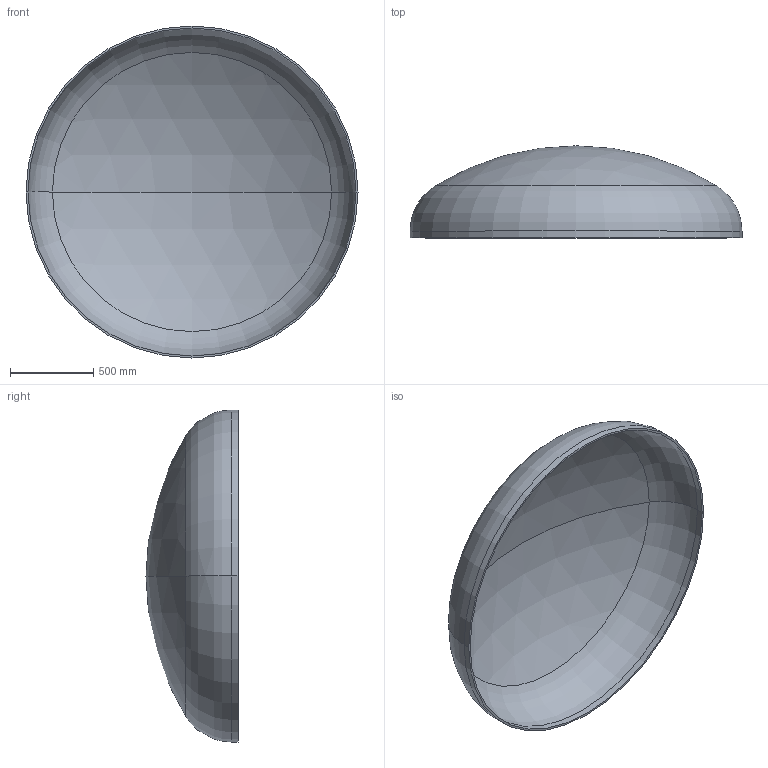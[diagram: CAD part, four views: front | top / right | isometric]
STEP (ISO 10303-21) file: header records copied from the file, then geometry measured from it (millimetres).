
FILE_DESCRIPTION (( 'STEP AP203' ), '1' );
FILE_NAME ('DIN 28013 Korbbogenform_-_Boden DIN 28013 - 2000 x 40 - I - s=12.step', '2016-07-01T13:36:50', ( '' ), ( '' ), 'SwSTEP 2.0', 'SolidWorks 2013', '' );
FILE_SCHEMA (( 'CONFIG_CONTROL_DESIGN' ));
Length unit declared in the file: millimetre
Products named in the file (1): DIN 28013 Korbbogenform_-_Boden DIN 28013 - 2000 x 40 - I - s=12
Bounding box: 2000 x 554.54 x 2000 mm (x, y, z)
Volume: 54864809.4 mm3; surface area: 9219378.8 mm2
Topology: 1 solids, 1 shells, 13 faces, 24 edges, 14 vertices
Faces by surface type: torus 4, cylinder 4, sphere 4, plane 1
Entity records: 407 total; most frequent: DIRECTION 72, CARTESIAN_POINT 52, ORIENTED_EDGE 48, AXIS2_PLACEMENT_3D 34, EDGE_CURVE 24, CIRCLE 20, VERTEX_POINT 14, EDGE_LOOP 14
